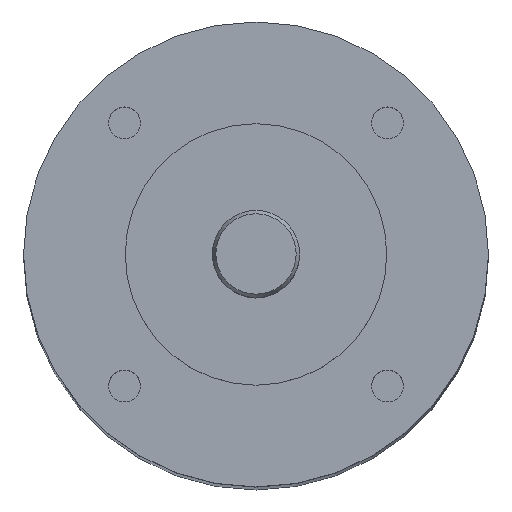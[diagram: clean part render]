
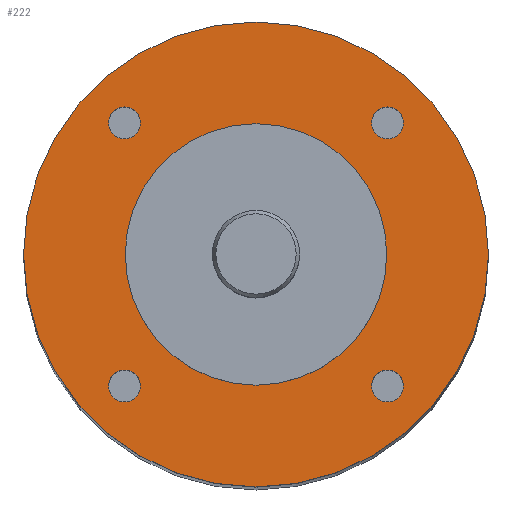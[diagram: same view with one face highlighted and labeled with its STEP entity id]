
A CAD part, top view. The second image highlights one B-rep face of the part: STEP entity #222.
In plain terms, the highlighted planar face has unit normal (0, 0, 1).
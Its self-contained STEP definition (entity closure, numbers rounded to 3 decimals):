
#184=PLANE('',#1027);
#222=ADVANCED_FACE('',(#325,#326,#327,#328,#329,#330),#184,.T.);
#325=FACE_BOUND('',#392,.T.);
#326=FACE_BOUND('',#393,.T.);
#327=FACE_BOUND('',#394,.T.);
#328=FACE_BOUND('',#395,.T.);
#329=FACE_BOUND('',#396,.T.);
#330=FACE_BOUND('',#397,.T.);
#392=EDGE_LOOP('',(#496));
#393=EDGE_LOOP('',(#497));
#394=EDGE_LOOP('',(#498));
#395=EDGE_LOOP('',(#499));
#396=EDGE_LOOP('',(#500));
#397=EDGE_LOOP('',(#501));
#496=ORIENTED_EDGE('',*,*,#831,.T.);
#497=ORIENTED_EDGE('',*,*,#832,.T.);
#498=ORIENTED_EDGE('',*,*,#833,.T.);
#499=ORIENTED_EDGE('',*,*,#834,.T.);
#500=ORIENTED_EDGE('',*,*,#835,.T.);
#501=ORIENTED_EDGE('',*,*,#829,.F.);
#736=VERTEX_POINT('',#1481);
#738=VERTEX_POINT('',#1486);
#739=VERTEX_POINT('',#1488);
#740=VERTEX_POINT('',#1490);
#741=VERTEX_POINT('',#1492);
#742=VERTEX_POINT('',#1494);
#829=EDGE_CURVE('',#736,#736,#950,.T.);
#831=EDGE_CURVE('',#738,#738,#952,.T.);
#832=EDGE_CURVE('',#739,#739,#953,.T.);
#833=EDGE_CURVE('',#740,#740,#954,.T.);
#834=EDGE_CURVE('',#741,#741,#955,.T.);
#835=EDGE_CURVE('',#742,#742,#956,.T.);
#950=CIRCLE('',#1019,8.);
#952=CIRCLE('',#1022,0.55);
#953=CIRCLE('',#1023,0.55);
#954=CIRCLE('',#1024,0.55);
#955=CIRCLE('',#1025,0.55);
#956=CIRCLE('',#1026,4.5);
#1019=AXIS2_PLACEMENT_3D('',#1480,#1162,#1163);
#1022=AXIS2_PLACEMENT_3D('',#1485,#1168,#1169);
#1023=AXIS2_PLACEMENT_3D('',#1487,#1170,#1171);
#1024=AXIS2_PLACEMENT_3D('',#1489,#1172,#1173);
#1025=AXIS2_PLACEMENT_3D('',#1491,#1174,#1175);
#1026=AXIS2_PLACEMENT_3D('',#1493,#1176,#1177);
#1027=AXIS2_PLACEMENT_3D('',#1495,#1178,#1179);
#1162=DIRECTION('',(0.,0.,-1.));
#1163=DIRECTION('',(1.,0.,0.));
#1168=DIRECTION('',(0.,0.,-1.));
#1169=DIRECTION('',(-1.,0.,0.));
#1170=DIRECTION('',(0.,0.,-1.));
#1171=DIRECTION('',(-1.,0.,0.));
#1172=DIRECTION('',(0.,0.,-1.));
#1173=DIRECTION('',(-1.,0.,0.));
#1174=DIRECTION('',(0.,0.,-1.));
#1175=DIRECTION('',(-1.,0.,0.));
#1176=DIRECTION('',(0.,0.,-1.));
#1177=DIRECTION('',(1.,0.,0.));
#1178=DIRECTION('',(0.,0.,1.));
#1179=DIRECTION('',(1.,0.,0.));
#1480=CARTESIAN_POINT('',(0.,0.,0.));
#1481=CARTESIAN_POINT('',(8.,0.,0.));
#1485=CARTESIAN_POINT('',(4.525,4.525,0.));
#1486=CARTESIAN_POINT('',(3.975,4.525,0.));
#1487=CARTESIAN_POINT('',(4.525,-4.525,0.));
#1488=CARTESIAN_POINT('',(3.975,-4.525,0.));
#1489=CARTESIAN_POINT('',(-4.525,-4.525,0.));
#1490=CARTESIAN_POINT('',(-5.075,-4.525,0.));
#1491=CARTESIAN_POINT('',(-4.525,4.525,0.));
#1492=CARTESIAN_POINT('',(-5.075,4.525,0.));
#1493=CARTESIAN_POINT('',(0.,0.,0.));
#1494=CARTESIAN_POINT('',(4.5,0.,0.));
#1495=CARTESIAN_POINT('',(0.,0.,0.));
